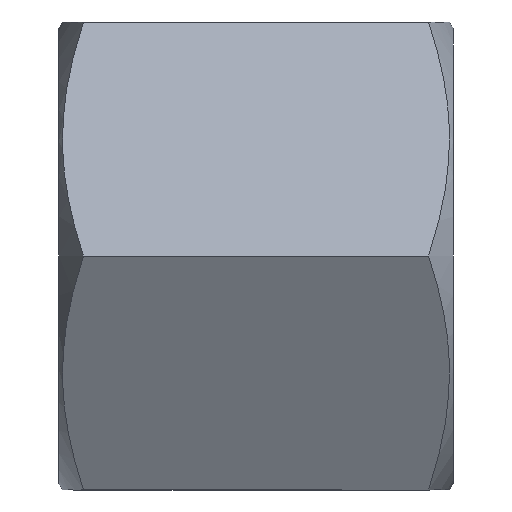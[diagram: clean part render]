
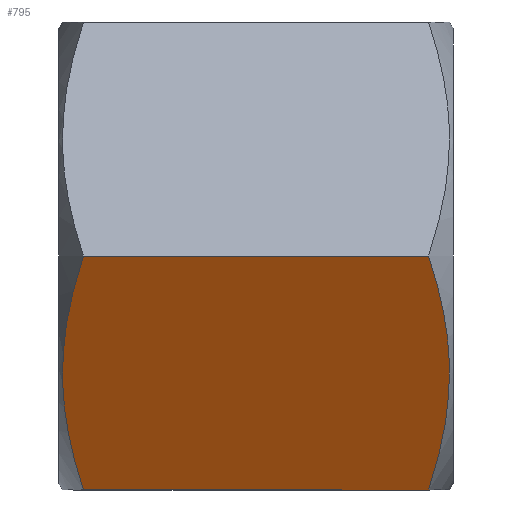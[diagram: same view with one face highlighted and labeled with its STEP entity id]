
A CAD part, front view. The second image highlights one B-rep face of the part: STEP entity #795.
In plain terms, the highlighted planar face has unit normal (0, -0.866, -0.5) as drawn and (-0.5, -0.866, 0) by its records, which use the part's own axes.
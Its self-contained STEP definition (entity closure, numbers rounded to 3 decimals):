
#168=CARTESIAN_POINT('',(-9.5,-5.485,7.007));
#169=VERTEX_POINT('',#168);
#183=CARTESIAN_POINT('',(0.,-10.97,7.007));
#184=VERTEX_POINT('',#183);
#185=CARTESIAN_POINT('',(0.,-10.97,7.007));
#186=CARTESIAN_POINT('',(-4.75,-8.227,8.59));
#187=CARTESIAN_POINT('',(-9.5,-5.485,7.007));
#195=(BOUNDED_CURVE()B_SPLINE_CURVE(2,(#185,#186,#187),.UNSPECIFIED.,.F.,.U.)B_SPLINE_CURVE_WITH_KNOTS((3,3),(3.286,15.84),.UNSPECIFIED.)CURVE()GEOMETRIC_REPRESENTATION_ITEM()RATIONAL_B_SPLINE_CURVE((1.114,1.286,1.114))REPRESENTATION_ITEM(''));
#196=EDGE_CURVE('',#184,#169,#195,.T.);
#259=CARTESIAN_POINT('',(0.,-10.97,-7.007));
#260=VERTEX_POINT('',#259);
#274=CARTESIAN_POINT('',(-9.5,-5.485,-7.007));
#275=VERTEX_POINT('',#274);
#276=CARTESIAN_POINT('',(-9.5,-5.485,-7.007));
#277=CARTESIAN_POINT('',(-4.75,-8.227,-8.59));
#278=CARTESIAN_POINT('',(0.,-10.97,-7.007));
#286=(BOUNDED_CURVE()B_SPLINE_CURVE(2,(#276,#277,#278),.UNSPECIFIED.,.F.,.U.)B_SPLINE_CURVE_WITH_KNOTS((3,3),(3.286,15.84),.UNSPECIFIED.)CURVE()GEOMETRIC_REPRESENTATION_ITEM()RATIONAL_B_SPLINE_CURVE((1.114,1.286,1.114))REPRESENTATION_ITEM(''));
#287=EDGE_CURVE('',#275,#260,#286,.T.);
#745=CARTESIAN_POINT('',(-9.5,-5.485,7.007));
#746=DIRECTION('',(0.0,0.0,-1.0));
#747=VECTOR('',#746,14.014);
#748=LINE('',#745,#747);
#749=EDGE_CURVE('',#169,#275,#748,.T.);
#779=CARTESIAN_POINT('',(-9.5,-5.485,0.0));
#780=DIRECTION('',(-0.5,-0.866,0.0));
#781=DIRECTION('',(0.0,0.0,-1.0));
#782=AXIS2_PLACEMENT_3D('',#779,#780,#781);
#783=PLANE('',#782);
#784=ORIENTED_EDGE('',*,*,#287,.T.);
#785=CARTESIAN_POINT('',(0.,-10.97,-7.007));
#786=DIRECTION('',(0.0,0.0,1.0));
#787=VECTOR('',#786,14.014);
#788=LINE('',#785,#787);
#789=EDGE_CURVE('',#260,#184,#788,.T.);
#790=ORIENTED_EDGE('',*,*,#789,.T.);
#791=ORIENTED_EDGE('',*,*,#196,.T.);
#792=ORIENTED_EDGE('',*,*,#749,.T.);
#793=EDGE_LOOP('',(#784,#790,#791,#792));
#794=FACE_OUTER_BOUND('',#793,.T.);
#795=ADVANCED_FACE('',(#794),#783,.T.);
